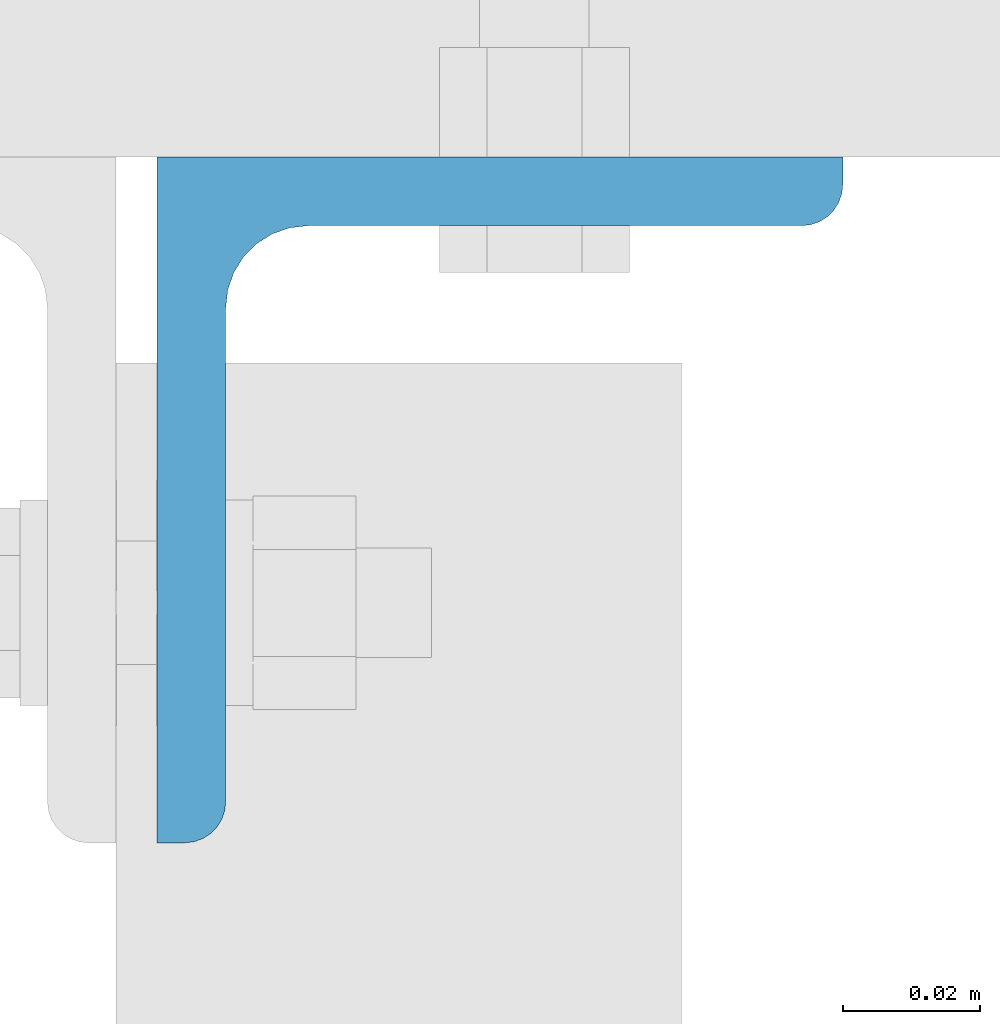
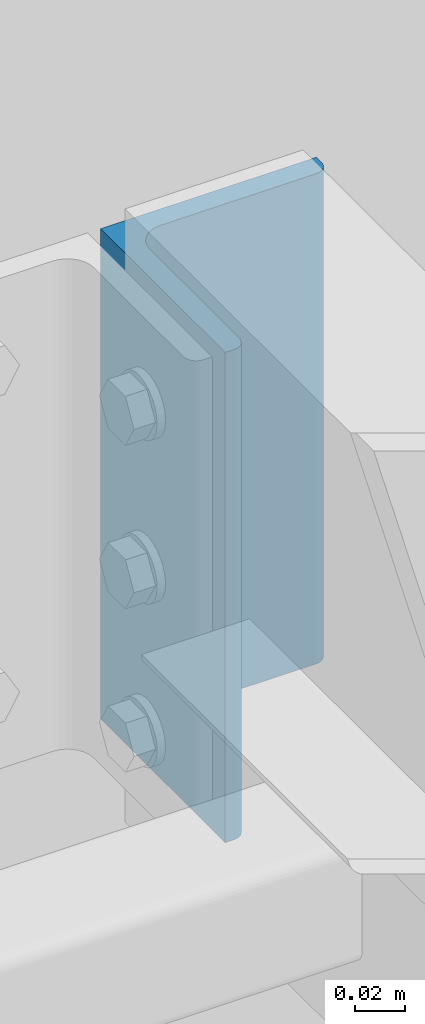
# One storey, part 46 of 123: 1 beam, 1 element without a shape of its own.
"""IFC2X3 building model written with IfcOpenShell, lengths in millimetres."""

from ifc_helpers import new_model, si_unit, frame, origin_with_axes, origin_2d_with_axis, place, context, subcontext, project, spatial, l_section, extrude, material, type_object, element, aggregate, save


model = new_model("IFC2X3")

# Units and contexts
model_context = context("Model", 3, precision=1e-05, world=origin_with_axes())
body_context = subcontext(model_context, "Body", "Model", "MODEL_VIEW")
ifc_project = project(units=[si_unit("LENGTHUNIT", "METRE", prefix="MILLI"), si_unit("AREAUNIT", "SQUARE_METRE"), si_unit("VOLUMEUNIT", "CUBIC_METRE"), si_unit("MASSUNIT", "GRAM", prefix="KILO"), si_unit("TIMEUNIT", "SECOND"), si_unit("PLANEANGLEUNIT", "RADIAN"), si_unit("SOLIDANGLEUNIT", "STERADIAN"), si_unit("THERMODYNAMICTEMPERATUREUNIT", "DEGREE_CELSIUS"), si_unit("LUMINOUSINTENSITYUNIT", "LUMEN")], contexts=[model_context])

# Site, building, storey
site_placement = place(None, origin_with_axes())
site = spatial("IfcSite", under=ifc_project, at=site_placement, Name="Undefined", CompositionType="ELEMENT")
building_placement = place(site_placement, origin_with_axes())
building = spatial("IfcBuilding", under=site, at=building_placement, Name="Undefined", CompositionType="ELEMENT")
storey_placement = place(building_placement, origin_with_axes())
storey = spatial("IfcBuildingStorey", under=building, at=storey_placement, Name="Undefined", CompositionType="ELEMENT", Elevation=0.0)

# Assembly, beam
assembly_placement = place(storey_placement, origin_with_axes())
assembly = element("IfcElementAssembly", 1, at=assembly_placement, inside=storey, Name="Steel Assembly", AssemblyPlace="NOTDEFINED", PredefinedType="RIGID_FRAME")
ifc_material = material(Name="STEEL/S235-E24")
beam_type = type_object("IfcBeamType", Name="L100*10", PredefinedType="NOTDEFINED")
beam_placement = place(assembly_placement, frame((24792.491600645, 15339.9999999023, 8210.00437164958), z_axis=(1.0, 0.0, 0.0), x_axis=(0.0, 0.0, -1.0)))
beam = element("IfcBeam", 2, at=beam_placement, type_object=beam_type, material=ifc_material, Name="ATTACHE", ObjectType="L100*10", context=body_context, shape_type="SweptSolid", body=[
    extrude(l_section(Depth=100.0, Width=100.0, Thickness=10.0, FilletRadius=12.0, EdgeRadius=6.0, at=origin_2d_with_axis()), frame((240.0, 0.0, 0.0), z_axis=(-1.0, 0.0, 0.0), x_axis=(0.0, -1.0, 0.0)), (0.0, 0.0, 1.0), 240.0),
])
aggregate(assembly, [beam])

save(model, "model.ifc")
